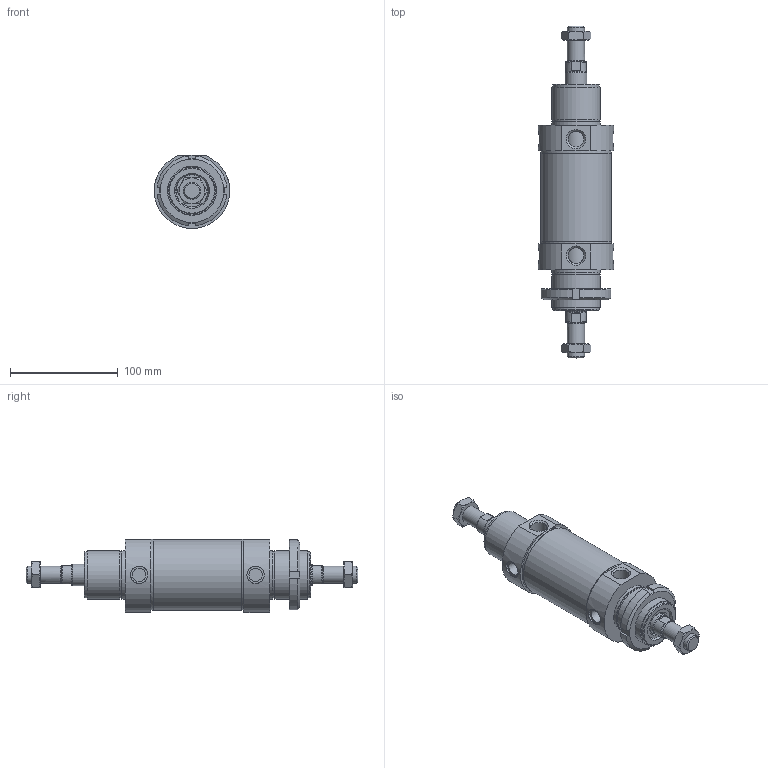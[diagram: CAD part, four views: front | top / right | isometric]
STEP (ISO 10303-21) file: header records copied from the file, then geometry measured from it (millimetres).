
FILE_DESCRIPTION(/* description */ ('Unknown'),/* implementation_level */ '2;1');
FILE_NAME(/* name */ 'AJ 63_10',/* time_stamp */ '2024-09-05T08:31:04+02:00',/* author */ ('Unknown'),/* organization */ ('Unknown'),/* preprocessor_version */ 'ST-DEVELOPER v16.7',/* originating_system */ 'Solid Edge',/* authorisation */ 'Unknown');
FILE_SCHEMA (('AUTOMOTIVE_DESIGN {1 0 10303 214 3 1 1}'));
Length unit declared in the file: millimetre
Products named in the file (6): AJ 63_10; Kit; Kolbenstange; Profilrohr; Mutter_1; Mutter_2
Assembly tree (8 placements, depth 2):
  AJ 63_10
    Kit  x2
    Kolbenstange  x2
    Profilrohr
    Mutter_1  x2
    Mutter_2
Bounding box: 70 x 308 x 67.75 mm (x, y, z)
Volume: 604686.9 mm3; surface area: 136203.2 mm2
Topology: 8 solids, 12 shells, 254 faces, 517 edges, 325 vertices
Faces by surface type: plane 98, cone 75, cylinder 65, torus 16
Full cylindrical faces by diameter (mm): 12.37 x4, 12.376 x4, 14.376 x2, 14.94 x2, 14.95 x2, 16 x6, 19 x2, 20 x4, 20.8 x2, 20.847 x2, 23 x2, 24 x4, 30 x6, 43 x4, 43.376 x1, 45 x4, 63 x3, 65.4 x1, 65.5 x2
Entity records: 4512 total; most frequent: CARTESIAN_POINT 685, DIRECTION 614, ORIENTED_EDGE 440, AXIS2_PLACEMENT_3D 280, EDGE_LOOP 234, FACE_BOUND 234, EDGE_CURVE 220, VERTEX_POINT 172
